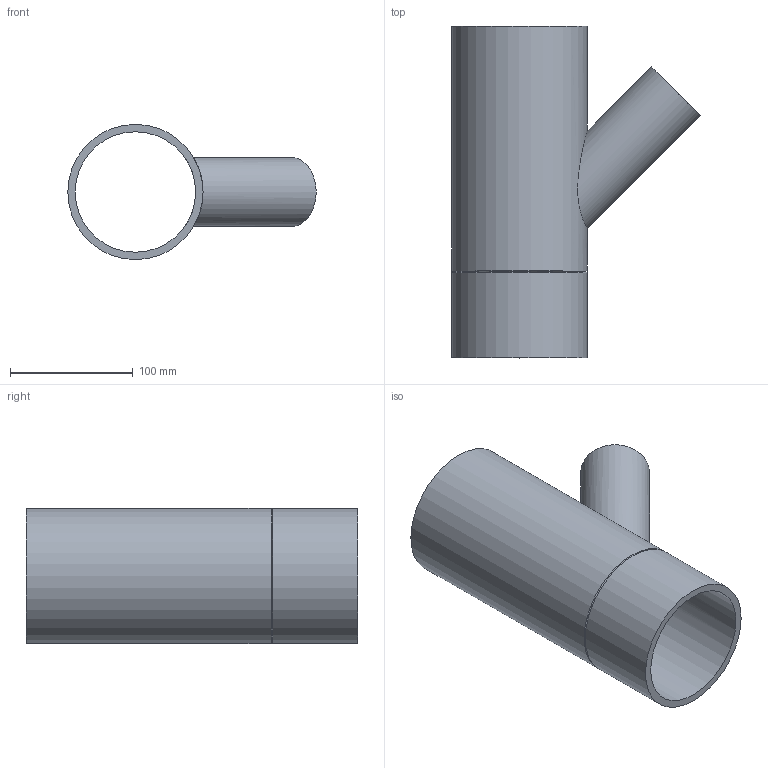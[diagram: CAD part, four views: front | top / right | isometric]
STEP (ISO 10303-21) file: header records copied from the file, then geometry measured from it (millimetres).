
FILE_DESCRIPTION(/* description */ (''),/* implementation_level */ '2;1');
FILE_NAME(/* name */ 'Z:\Geberit\Export\Export18\Abzweig Gerade_Ipart\stp\310054.stp',/* time_stamp */ '2014-08-26T21:51:43+02:00',/* author */ ('ML'),/* organization */ (''),/* preprocessor_version */ 'ST-DEVELOPER v15.2',/* originating_system */ 'Autodesk Inventor 2014',/* authorisation */ '');
FILE_SCHEMA (('AUTOMOTIVE_DESIGN { 1 0 10303 214 3 1 1 }'));
Length unit declared in the file: millimetre
Products named in the file (1): 310054
Bounding box: 202.08 x 270 x 110 mm (x, y, z)
Volume: 568829.8 mm3; surface area: 211778.7 mm2
Topology: 1 solids, 1 shells, 10 faces, 25 edges, 17 vertices
Faces by surface type: cylinder 5, plane 3, cone 2
Full cylindrical faces by diameter (mm): 49.6 x1, 56 x1, 98 x1, 110 x2
Entity records: 351 total; most frequent: CARTESIAN_POINT 147, DIRECTION 40, EDGE_LOOP 22, ORIENTED_EDGE 22, AXIS2_PLACEMENT_3D 20, FACE_BOUND 17, VERTEX_POINT 11, EDGE_CURVE 11
